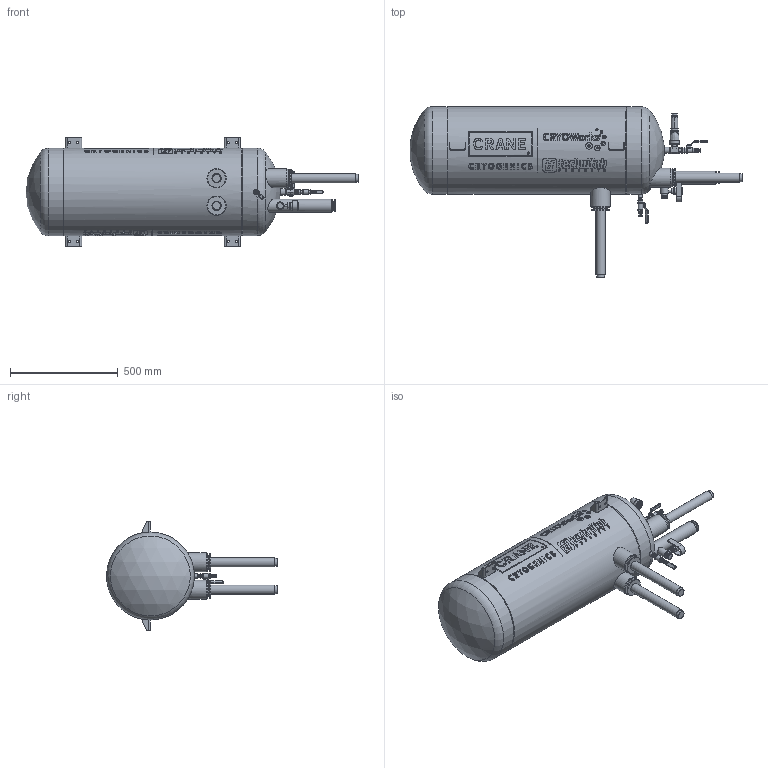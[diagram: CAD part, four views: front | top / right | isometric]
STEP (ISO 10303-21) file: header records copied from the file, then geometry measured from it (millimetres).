
FILE_DESCRIPTION (( 'STEP AP203' ), '1' );
FILE_NAME ('CA01740.step', '2025-12-17T20:02:50', ( '' ), ( '' ), 'SwSTEP 2.0', 'SolidWorks 2023', '' );
FILE_SCHEMA (( 'CONFIG_CONTROL_DESIGN' ));
Length unit declared in the file: inch
Products named in the file (1): CA01740
Bounding box: 1539.51 x 792.16 x 508 mm (x, y, z)
Volume: 146673817.5 mm3; surface area: 2099440.8 mm2
Topology: 1 solids, 13 shells, 2415 faces, 6113 edges, 3937 vertices
Faces by surface type: plane 1123, cylinder 608, cone 439, bspline 202, torus 29, sphere 14
Full cylindrical faces by diameter (mm): 4.182 x2, 4.581 x2, 4.75 x2, 4.775 x1, 4.977 x2, 5.527 x14, 5.71 x2, 6.221 x14, 6.272 x4, 6.35 x6, 6.446 x2, 7.112 x1, 7.722 x2, 7.976 x2, 8.307 x2, 8.598 x2, 9.188 x2, 9.246 x3, 9.322 x2, 9.525 x8, 9.544 x2, 9.842 x2, 10.171 x2, 10.262 x1, 10.661 x2, 11.112 x6, 11.225 x2, 12.494 x2, 12.7 x1, 12.804 x2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
Entity records: 170786 total; most frequent: CARTESIAN_POINT 119206, ORIENTED_EDGE 11126, DIRECTION 9331, EDGE_CURVE 5563, VERTEX_POINT 3763, AXIS2_PLACEMENT_3D 3538, EDGE_LOOP 3072, FACE_OUTER_BOUND 2595
